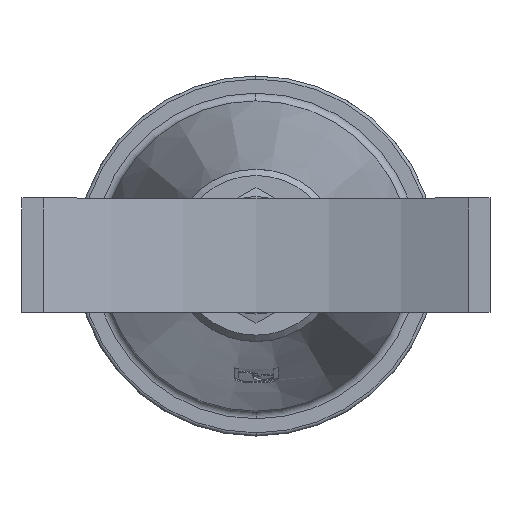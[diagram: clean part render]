
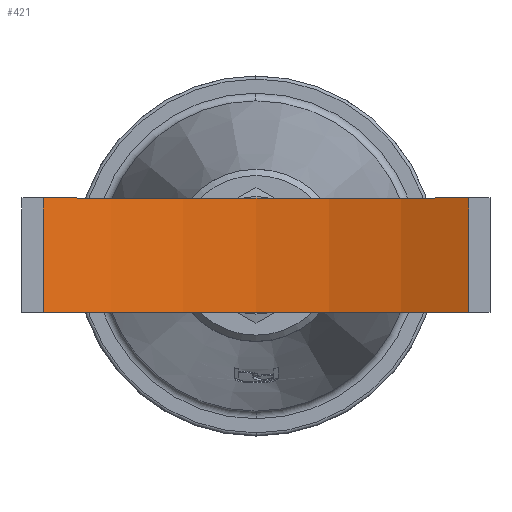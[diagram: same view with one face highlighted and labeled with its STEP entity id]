
A CAD part, top view. The second image highlights one B-rep face of the part: STEP entity #421.
In plain terms, the highlighted cylindrical face has radius 304.8 mm (diameter 609.6 mm), a partial arc.
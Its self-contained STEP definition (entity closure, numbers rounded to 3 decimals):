
#421=ADVANCED_FACE('',(#815),#816,.F.);
#815=FACE_OUTER_BOUND('',#1210,.T.);
#816=CYLINDRICAL_SURFACE('',#1211,304.8);
#1210=EDGE_LOOP('',(#2199,#2200,#2201,#2202));
#1211=AXIS2_PLACEMENT_3D('',#2203,#2204,#2205);
#2199=ORIENTED_EDGE('',*,*,#2632,.T.);
#2200=ORIENTED_EDGE('',*,*,#2633,.F.);
#2201=ORIENTED_EDGE('',*,*,#2634,.T.);
#2202=ORIENTED_EDGE('',*,*,#2629,.T.);
#2203=CARTESIAN_POINT('',(441.282,626.473,438.8));
#2204=DIRECTION('',(0.0,-1.0,0.));
#2205=DIRECTION('',(1.0,0.,0.));
#2629=EDGE_CURVE('',#3198,#3196,#3199,.T.);
#2632=EDGE_CURVE('',#3196,#3202,#3203,.T.);
#2633=EDGE_CURVE('',#3204,#3202,#3205,.T.);
#2634=EDGE_CURVE('',#3204,#3198,#3206,.T.);
#3196=VERTEX_POINT('',#4481);
#3198=VERTEX_POINT('',#4484);
#3199=LINE('',#4485,#4486);
#3202=VERTEX_POINT('',#4490);
#3203=CIRCLE('',#4491,304.8);
#3204=VERTEX_POINT('',#4492);
#3205=LINE('',#4493,#4494);
#3206=CIRCLE('',#4495,304.8);
#4481=CARTESIAN_POINT('',(305.329,553.473,166.));
#4484=CARTESIAN_POINT('',(305.329,626.473,166.));
#4485=CARTESIAN_POINT('',(305.329,626.473,166.));
#4486=VECTOR('',#4947,1.0);
#4490=CARTESIAN_POINT('',(577.235,553.473,166.));
#4491=AXIS2_PLACEMENT_3D('',#4949,#4950,#4951);
#4492=CARTESIAN_POINT('',(577.235,626.473,166.));
#4493=CARTESIAN_POINT('',(577.235,626.473,166.));
#4494=VECTOR('',#4952,1.0);
#4495=AXIS2_PLACEMENT_3D('',#4953,#4954,#4955);
#4947=DIRECTION('',(0.0,-1.0,0.));
#4949=CARTESIAN_POINT('',(441.282,553.473,438.8));
#4950=DIRECTION('',(0.0,-1.0,0.));
#4951=DIRECTION('',(1.0,0.,0.));
#4952=DIRECTION('',(0.0,-1.0,0.));
#4953=CARTESIAN_POINT('',(441.282,626.473,438.8));
#4954=DIRECTION('',(0.0,1.0,0.));
#4955=DIRECTION('',(1.0,0.,0.));
